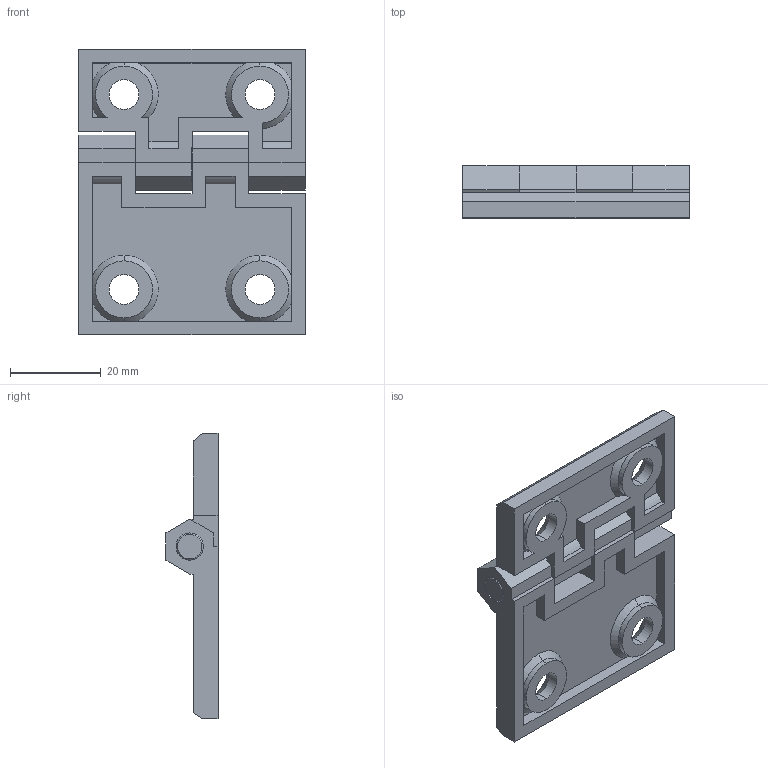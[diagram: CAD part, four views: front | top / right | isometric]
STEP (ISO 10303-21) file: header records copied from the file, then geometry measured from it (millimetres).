
FILE_DESCRIPTION (( 'STEP AP203' ), '1' );
FILE_NAME ('B05-22642.STEP', '2024-10-25T08:50:03', ( '' ), ( '' ), 'SwSTEP 2.0', 'SolidWorks 2021', '' );
FILE_SCHEMA (( 'CONFIG_CONTROL_DESIGN' ));
Length unit declared in the file: millimetre
Products named in the file (4): B05-22642; B05-22671-1; B05-22642-2; B05-22642-1
Assembly tree (3 placements, depth 2):
  B05-22642
    B05-22642-1
    B05-22642-2
    B05-22671-1
Bounding box: 50 x 11.5 x 63 mm (x, y, z)
Volume: 14674 mm3; surface area: 11655.1 mm2
Topology: 3 solids, 3 shells, 136 faces, 366 edges, 238 vertices
Faces by surface type: plane 86, cylinder 30, cone 20
Entity records: 4733 total; most frequent: CARTESIAN_POINT 845, ORIENTED_EDGE 732, DIRECTION 713, EDGE_CURVE 366, VECTOR 261, LINE 261, VERTEX_POINT 238, AXIS2_PLACEMENT_3D 226
